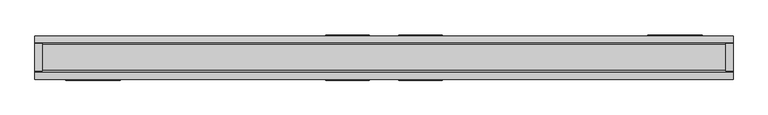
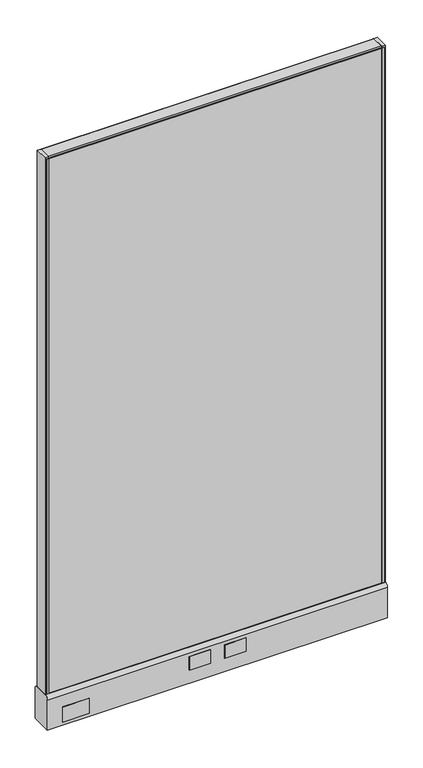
"""IFC4 building model written with IfcOpenShell, lengths in millimetres: furniture geometry."""

from ifc_helpers import new_model, si_unit, point, frame, frame_2d, origin, place, context, project, spatial, polyline, circle_curve, trimmed, segment, composite_curve, outline, extrude, source, transform, mapped, element, save
from ifc_brep_helpers import plane_surface, cylinder_surface, advanced_brep


def furniture_9b7a8d55(model_context):
    return source(origin(), model_context, "Body", "SolidModel", [
        extrude(outline(polyline([(-101.6, 39.6875), (-25.4, 39.6875), (-25.4, 38.1), (-101.6, 38.1), (-101.6, 39.6875)])), frame((0.0, 0.0, 60.325), z_axis=(0.0, 0.0, 1.0), x_axis=(1.0, 0.0, 0.0)), (0.0, 0.0, 1.0), 50.8),
        extrude(outline(polyline([(25.4, 39.6875), (101.6, 39.6875), (101.6, 38.1), (25.4, 38.1), (25.4, 39.6875)])), frame((0.0, 0.0, 60.325), z_axis=(0.0, 0.0, 1.0), x_axis=(1.0, 0.0, 0.0)), (0.0, 0.0, 1.0), 50.8),
        extrude(outline(polyline([(-101.6, -38.1), (-25.4, -38.1), (-25.4, -39.6875), (-101.6, -39.6875), (-101.6, -38.1)])), frame((0.0, 0.0, 60.325), z_axis=(0.0, 0.0, 1.0), x_axis=(1.0, 0.0, 0.0)), (0.0, 0.0, 1.0), 50.8),
        extrude(outline(polyline([(25.4, -38.1), (101.6, -38.1), (101.6, -39.6875), (25.4, -39.6875), (25.4, -38.1)])), frame((0.0, 0.0, 60.325), z_axis=(0.0, 0.0, 1.0), x_axis=(1.0, 0.0, 0.0)), (0.0, 0.0, 1.0), 50.8),
        extrude(outline(polyline([(555.625, 38.1), (460.375, 38.1), (460.375, 39.6875), (555.625, 39.6875), (555.625, 38.1)])), frame((0.0, 0.0, 22.225), z_axis=(0.0, 0.0, 1.0), x_axis=(1.0, 0.0, 0.0)), (0.0, 0.0, 1.0), 57.15),
        extrude(outline(polyline([(-460.375, -39.6875), (-555.625, -39.6875), (-555.625, -38.1), (-460.375, -38.1), (-460.375, -39.6875)])), frame((0.0, 0.0, 22.225), z_axis=(0.0, 0.0, 1.0), x_axis=(1.0, 0.0, 0.0)), (0.0, 0.0, 1.0), 57.15),
        advanced_brep(
        [(552.45, 0.0, 0.0), (577.85, 0.0, 0.0), (565.15, 0.0, 0.0), (552.45, 0.0, 4.7625), (577.85, 0.0, 4.7625), (558.8, 0.0, 4.7625), (571.5, 0.0, 4.7625), (558.8, 0.0, 111.125), (571.5, 0.0, 111.125), (565.15, 0.0, 111.125)],
        [
            (0, 1, circle_curve(frame((565.15, 0.0, 0.0), z_axis=(0.0, 0.0, -1.0), x_axis=(1.0, 0.0, 0.0)), 12.7)),
            (1, 2),
            (2, 0),
            (1, 0, circle_curve(frame((565.15, 0.0, 0.0), z_axis=(0.0, 0.0, -1.0), x_axis=(1.0, 0.0, 0.0)), 12.7)),
            (3, 4, circle_curve(frame((565.15, 0.0, 4.7625), z_axis=(0.0, 0.0, -1.0), x_axis=(1.0, 0.0, 0.0)), 12.7)),
            (4, 1),
            (0, 3),
            (4, 3, circle_curve(frame((565.15, 0.0, 4.7625), z_axis=(0.0, 0.0, -1.0), x_axis=(1.0, 0.0, 0.0)), 12.7)),
            (5, 6, circle_curve(frame((565.15, 0.0, 4.7625), z_axis=(0.0, 0.0, -1.0), x_axis=(1.0, 0.0, 0.0)), 6.35)),
            (6, 4),
            (3, 5),
            (6, 5, circle_curve(frame((565.15, 0.0, 4.7625), z_axis=(0.0, 0.0, -1.0), x_axis=(1.0, 0.0, 0.0)), 6.35)),
            (7, 8, circle_curve(frame((565.15, 0.0, 111.125), z_axis=(0.0, 0.0, -1.0), x_axis=(1.0, 0.0, 0.0)), 6.35)),
            (8, 6),
            (5, 7),
            (8, 7, circle_curve(frame((565.15, 0.0, 111.125), z_axis=(0.0, 0.0, -1.0), x_axis=(1.0, 0.0, 0.0)), 6.35)),
            (9, 8),
            (7, 9),
        ],
        [
            plane_surface(frame((565.15, 0.0, 0.0), z_axis=(0.0, 0.0, -1.0), x_axis=(1.0, 0.0, 0.0))),
            cylinder_surface(frame((565.15, 0.0, 114.882153), z_axis=(0.0, 0.0, 1.0), x_axis=(1.0, 0.0, 0.0)), 12.7),
            plane_surface(frame((565.15, 0.0, 4.7625), z_axis=(0.0, 0.0, 1.0), x_axis=(1.0, 0.0, 0.0))),
            cylinder_surface(frame((565.15, 0.0, 114.882153), z_axis=(0.0, 0.0, 1.0), x_axis=(1.0, 0.0, 0.0)), 6.35),
            plane_surface(frame((565.15, 0.0, 111.125), z_axis=(0.0, 0.0, 1.0), x_axis=(1.0, 0.0, 0.0))),
        ],
        [
            (0, [[1, 2, 3]]),
            (0, [[4, -3, -2]]),
            (1, [[5, 6, -1, 7]]),
            (1, [[8, -7, -4, -6]]),
            (2, [[9, 10, -5, 11]]),
            (2, [[12, -11, -8, -10]]),
            (3, [[13, 14, -9, 15]]),
            (3, [[16, -15, -12, -14]]),
            (4, [[17, -13, 18]]),
            (4, [[-18, -16, -17]]),
        ],
    ),
        advanced_brep(
        [(-577.85, 0.0, 4.7625), (-552.45, 0.0, 4.7625), (-552.45, 0.0, 0.0), (-577.85, 0.0, 0.0), (-571.5, 0.0, 4.7625), (-558.8, 0.0, 4.7625), (-571.5, 0.0, 111.125), (-558.8, 0.0, 111.125), (-565.15, 0.0, 111.125), (-565.15, 0.0, 0.0)],
        [
            (0, 1, circle_curve(frame((-565.15, 0.0, 4.7625), z_axis=(0.0, 0.0, -1.0), x_axis=(1.0, 0.0, 0.0)), 12.7)),
            (1, 2),
            (2, 3, circle_curve(frame((-565.15, 0.0, 0.0), z_axis=(0.0, 0.0, 1.0), x_axis=(1.0, 0.0, 0.0)), 12.7)),
            (3, 0),
            (1, 0, circle_curve(frame((-565.15, 0.0, 4.7625), z_axis=(0.0, 0.0, -1.0), x_axis=(1.0, 0.0, 0.0)), 12.7)),
            (3, 2, circle_curve(frame((-565.15, 0.0, 0.0), z_axis=(0.0, 0.0, 1.0), x_axis=(1.0, 0.0, 0.0)), 12.7)),
            (4, 5, circle_curve(frame((-565.15, 0.0, 4.7625), z_axis=(0.0, 0.0, -1.0), x_axis=(1.0, 0.0, 0.0)), 6.35)),
            (5, 1),
            (0, 4),
            (5, 4, circle_curve(frame((-565.15, 0.0, 4.7625), z_axis=(0.0, 0.0, -1.0), x_axis=(1.0, 0.0, 0.0)), 6.35)),
            (6, 7, circle_curve(frame((-565.15, 0.0, 111.125), z_axis=(0.0, 0.0, -1.0), x_axis=(1.0, 0.0, 0.0)), 6.35)),
            (7, 5),
            (4, 6),
            (7, 6, circle_curve(frame((-565.15, 0.0, 111.125), z_axis=(0.0, 0.0, -1.0), x_axis=(1.0, 0.0, 0.0)), 6.35)),
            (8, 7),
            (6, 8),
            (2, 9),
            (9, 3),
        ],
        [
            cylinder_surface(frame((-565.15, 0.0, 123.825), z_axis=(0.0, 0.0, 1.0), x_axis=(1.0, 0.0, 0.0)), 12.7),
            plane_surface(frame((-565.15, 0.0, 4.7625), z_axis=(0.0, 0.0, 1.0), x_axis=(1.0, 0.0, 0.0))),
            cylinder_surface(frame((-565.15, 0.0, 123.825), z_axis=(0.0, 0.0, 1.0), x_axis=(1.0, 0.0, 0.0)), 6.35),
            plane_surface(frame((-565.15, 0.0, 111.125), z_axis=(0.0, 0.0, 1.0), x_axis=(1.0, 0.0, 0.0))),
            plane_surface(frame((-565.15, 0.0, 0.0), z_axis=(0.0, 0.0, -1.0), x_axis=(1.0, 0.0, 0.0))),
        ],
        [
            (0, [[1, 2, 3, 4]]),
            (0, [[5, -4, 6, -2]]),
            (1, [[7, 8, -1, 9]]),
            (1, [[10, -9, -5, -8]]),
            (2, [[11, 12, -7, 13]]),
            (2, [[14, -13, -10, -12]]),
            (3, [[15, -11, 16]]),
            (3, [[-16, -14, -15]]),
            (4, [[-3, 17, 18]]),
            (4, [[-6, -18, -17]]),
        ],
    ),
        extrude(outline(polyline([(-609.6, 23.8125), (-596.9, 23.8125), (-596.9, -23.8125), (-609.6, -23.8125), (-609.6, 23.8125)])), frame((0.0, 0.0, 136.525), z_axis=(0.0, 0.0, 1.0), x_axis=(1.0, 0.0, 0.0)), (0.0, 0.0, 1.0), 2032.0),
        extrude(outline(polyline([(596.9, -23.8125), (596.9, 23.8125), (609.6, 23.8125), (609.6, -23.8125), (596.9, -23.8125)])), frame((0.0, 0.0, 136.525), z_axis=(0.0, 0.0, 1.0), x_axis=(1.0, 0.0, 0.0)), (0.0, 0.0, 1.0), 2032.0),
        extrude(outline(polyline([(-596.9, 25.4), (-596.9, 23.8125), (-604.8375, 23.8125), (-604.8375, 25.4), (-596.9, 25.4)])), frame((0.0, 0.0, 136.525), z_axis=(0.0, 0.0, 1.0), x_axis=(1.0, 0.0, 0.0)), (0.0, 0.0, 1.0), 2025.65),
        extrude(outline(polyline([(-596.9, -25.4), (-604.8375, -25.4), (-604.8375, -23.8125), (-596.9, -23.8125), (-596.9, -25.4)])), frame((0.0, 0.0, 136.525), z_axis=(0.0, 0.0, 1.0), x_axis=(1.0, 0.0, 0.0)), (0.0, 0.0, 1.0), 2025.65),
        extrude(outline(polyline([(604.8375, 23.8125), (596.9, 23.8125), (596.9, 25.4), (604.8375, 25.4), (604.8375, 23.8125)])), frame((0.0, 0.0, 136.525), z_axis=(0.0, 0.0, 1.0), x_axis=(1.0, 0.0, 0.0)), (0.0, 0.0, 1.0), 2025.65),
        extrude(outline(polyline([(596.9, -25.4), (596.9, -23.8125), (604.8375, -23.8125), (604.8375, -25.4), (596.9, -25.4)])), frame((0.0, 0.0, 136.525), z_axis=(0.0, 0.0, 1.0), x_axis=(1.0, 0.0, 0.0)), (0.0, 0.0, 1.0), 2025.65),
        extrude(outline(composite_curve([segment(trimmed(circle_curve(frame_2d((22.225, 2165.35)), 3.175), [point((22.225, 2168.525))], [point((25.4, 2165.35))], False, "CARTESIAN"), True, "CONTINUOUS"), segment(polyline([(25.4, 2165.35), (25.4, 2162.175), (-25.4, 2162.175), (-25.4, 2165.35)]), True, "CONTINUOUS"), segment(trimmed(circle_curve(frame_2d((-22.225, 2165.35)), 3.175), [point((-25.4, 2165.35))], [point((-22.225, 2168.525))], False, "CARTESIAN"), True, "CONTINUOUS"), segment(polyline([(-22.225, 2168.525), (22.225, 2168.525)]), True, "CONTINUOUS")], self_intersect=False)), frame((-596.9, 0.0, 0.0), z_axis=(1.0, 0.0, 0.0), x_axis=(0.0, 1.0, 0.0)), (0.0, 0.0, 1.0), 1193.8),
        extrude(outline(composite_curve([segment(trimmed(circle_curve(frame_2d((25.4, 123.825)), 12.7), [point((25.4, 136.525))], [point((38.1, 123.825))], False, "CARTESIAN"), True, "CONTINUOUS"), segment(polyline([(38.1, 123.825), (38.1, 9.525), (-38.1, 9.525), (-38.1, 123.825)]), True, "CONTINUOUS"), segment(trimmed(circle_curve(frame_2d((-25.4, 123.825)), 12.7), [point((-38.1, 123.825))], [point((-25.4, 136.525))], False, "CARTESIAN"), True, "CONTINUOUS"), segment(polyline([(-25.4, 136.525), (25.4, 136.525)]), True, "CONTINUOUS")], self_intersect=False)), frame((-609.6, 0.0, 0.0), z_axis=(1.0, 0.0, 0.0), x_axis=(0.0, 1.0, 0.0)), (0.0, 0.0, 1.0), 1219.2),
        extrude(outline(polyline([(596.9, 23.8125), (596.9, -23.8125), (-596.9, -23.8125), (-596.9, 23.8125), (596.9, 23.8125)])), frame((0.0, 0.0, 136.525), z_axis=(0.0, 0.0, 1.0), x_axis=(1.0, 0.0, 0.0)), (0.0, 0.0, 1.0), 2025.65),
    ])


if __name__ == "__main__":
    model = new_model("IFC4")
    model_context = context("Model", 3, world=origin())
    ifc_project = project(units=[si_unit("LENGTHUNIT", "METRE", prefix="MILLI")], contexts=[model_context])
    site = spatial("IfcSite", under=ifc_project)
    building = spatial("IfcBuilding", under=site)
    placement = place(None, origin())
    furniture_shape = furniture_9b7a8d55(model_context)
    element("IfcFurniture", 1, ObjectType="HermanMiller_ActionOffice_A1110_Hard-SurfacedPanelStandardBase : 85\"H x 48\"W-G", at=placement, inside=building, context=model_context, shape_type="MappedRepresentation", body=[
        mapped(furniture_shape, transform((0.0, 0.0, 0.0), x_axis=(1.0, 0.0, 0.0), y_axis=(0.0, 1.0, 0.0), z_axis=(0.0, 0.0, 1.0))),
    ])
    save(model, "model.ifc")
